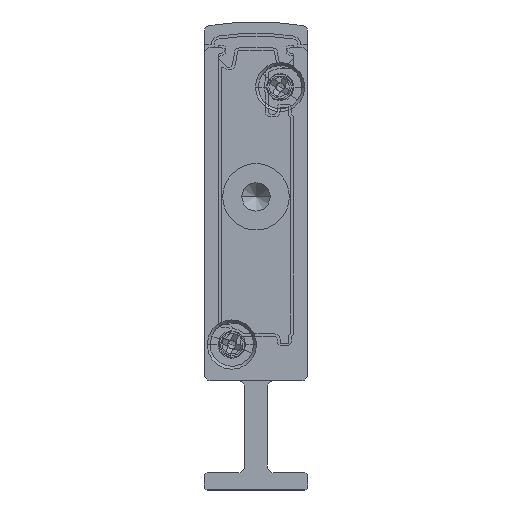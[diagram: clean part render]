
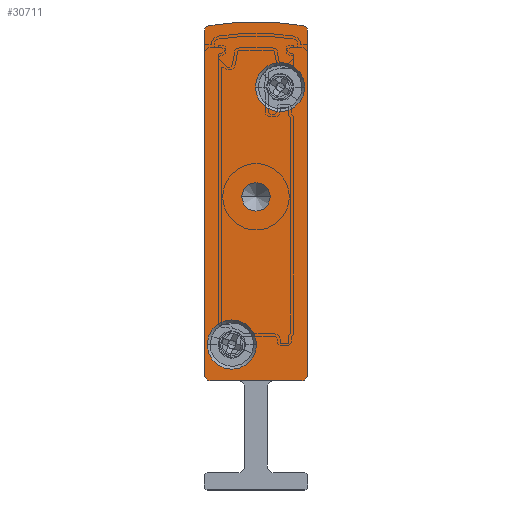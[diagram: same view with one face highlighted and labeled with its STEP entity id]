
A CAD part, front view. The second image highlights one B-rep face of the part: STEP entity #30711.
In plain terms, the highlighted planar face has unit normal (0, -1, 0).
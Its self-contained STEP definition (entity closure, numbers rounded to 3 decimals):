
#231 = CARTESIAN_POINT ( 'NONE',  ( 0.5, -2.5, 9.5 ) ) ;
#265 = DIRECTION ( 'NONE',  ( 1., 0., 0. ) ) ;
#379 = CIRCLE ( 'NONE', #15603, 0.5 ) ;
#557 = CARTESIAN_POINT ( 'NONE',  ( 0.5, -2.5, 39.902 ) ) ;
#647 = DIRECTION ( 'NONE',  ( 0., -1., 0. ) ) ;
#710 = AXIS2_PLACEMENT_3D ( 'NONE', #12746, #30651, #15248 ) ;
#941 = CARTESIAN_POINT ( 'NONE',  ( 8.5, -2.5, 9.5 ) ) ;
#1207 = CIRCLE ( 'NONE', #22330, 1.25 ) ;
#1385 = CIRCLE ( 'NONE', #710, 23.658 ) ;
#2446 = VERTEX_POINT ( 'NONE', #14548 ) ;
#3522 = DIRECTION ( 'NONE',  ( 0., 1., 0. ) ) ;
#3583 = CARTESIAN_POINT ( 'NONE',  ( 0.25, -2.5, 12.65 ) ) ;
#3723 = ORIENTED_EDGE ( 'NONE', *, *, #27003, .F. ) ;
#4072 = CIRCLE ( 'NONE', #13769, 1.25 ) ;
#4303 = VECTOR ( 'NONE', #25459, 1000. ) ;
#4341 = CARTESIAN_POINT ( 'NONE',  ( 0.408, -2.5, 40.393 ) ) ;
#4380 = ORIENTED_EDGE ( 'NONE', *, *, #33105, .F. ) ;
#4766 = DIRECTION ( 'NONE',  ( 0., 1., 0. ) ) ;
#5054 = CIRCLE ( 'NONE', #27409, 2.15 ) ;
#5088 = CARTESIAN_POINT ( 'NONE',  ( 6.6, -2.5, 35.05 ) ) ;
#5846 = FACE_BOUND ( 'NONE', #12994, .T. ) ;
#5941 = CIRCLE ( 'NONE', #13641, 0.5 ) ;
#5942 = ORIENTED_EDGE ( 'NONE', *, *, #26363, .F. ) ;
#6919 = CARTESIAN_POINT ( 'NONE',  ( 9., -2.5, 39.902 ) ) ;
#7326 = EDGE_CURVE ( 'NONE', #11623, #23209, #1207, .T. ) ;
#7616 = VECTOR ( 'NONE', #9473, 1000. ) ;
#7640 = VERTEX_POINT ( 'NONE', #231 ) ;
#8723 = VECTOR ( 'NONE', #24945, 1000. ) ;
#9177 = CARTESIAN_POINT ( 'NONE',  ( 8.75, -2.5, 35.05 ) ) ;
#9431 = DIRECTION ( 'NONE',  ( 0., -1., 0. ) ) ;
#9473 = DIRECTION ( 'NONE',  ( -1., 0., 0. ) ) ;
#9548 = VERTEX_POINT ( 'NONE', #11367 ) ;
#10101 = VERTEX_POINT ( 'NONE', #16615 ) ;
#10194 = ORIENTED_EDGE ( 'NONE', *, *, #20510, .F. ) ;
#10456 = DIRECTION ( 'NONE',  ( 0., -1., 0. ) ) ;
#11367 = CARTESIAN_POINT ( 'NONE',  ( 8.592, -2.5, 40.393 ) ) ;
#11573 = EDGE_CURVE ( 'NONE', #16693, #29483, #23569, .T. ) ;
#11623 = VERTEX_POINT ( 'NONE', #14760 ) ;
#11919 = AXIS2_PLACEMENT_3D ( 'NONE', #18233, #647, #21177 ) ;
#12029 = CARTESIAN_POINT ( 'NONE',  ( 2.4, -2.5, 12.65 ) ) ;
#12065 = CARTESIAN_POINT ( 'NONE',  ( 0.5, -2.5, 9.5 ) ) ;
#12095 = EDGE_CURVE ( 'NONE', #9548, #30003, #379, .T. ) ;
#12349 = DIRECTION ( 'NONE',  ( -1., 0., 0. ) ) ;
#12479 = DIRECTION ( 'NONE',  ( -1., 0., 0. ) ) ;
#12746 = CARTESIAN_POINT ( 'NONE',  ( 4.5, -2.5, 17.092 ) ) ;
#12994 = EDGE_LOOP ( 'NONE', ( #14776, #16353 ) ) ;
#13170 = ORIENTED_EDGE ( 'NONE', *, *, #22545, .F. ) ;
#13190 = ORIENTED_EDGE ( 'NONE', *, *, #31563, .F. ) ;
#13641 = AXIS2_PLACEMENT_3D ( 'NONE', #21464, #3522, #29479 ) ;
#13769 = AXIS2_PLACEMENT_3D ( 'NONE', #32616, #30128, #12349 ) ;
#14548 = CARTESIAN_POINT ( 'NONE',  ( 4.45, -2.5, 35.05 ) ) ;
#14599 = DIRECTION ( 'NONE',  ( 0., 1., 0. ) ) ;
#14760 = CARTESIAN_POINT ( 'NONE',  ( 3.25, -2.5, 25.5 ) ) ;
#14776 = ORIENTED_EDGE ( 'NONE', *, *, #7326, .T. ) ;
#14985 = CIRCLE ( 'NONE', #26468, 0.5 ) ;
#15248 = DIRECTION ( 'NONE',  ( -1., 0., 0. ) ) ;
#15318 = DIRECTION ( 'NONE',  ( -1., 0., 0. ) ) ;
#15603 = AXIS2_PLACEMENT_3D ( 'NONE', #16629, #14599, #32633 ) ;
#15652 = DIRECTION ( 'NONE',  ( 0., 1., 0. ) ) ;
#16067 = DIRECTION ( 'NONE',  ( 0., 1., 0. ) ) ;
#16088 = EDGE_LOOP ( 'NONE', ( #13170, #30492 ) ) ;
#16220 = VERTEX_POINT ( 'NONE', #9177 ) ;
#16353 = ORIENTED_EDGE ( 'NONE', *, *, #31916, .T. ) ;
#16564 = CIRCLE ( 'NONE', #30415, 2.15 ) ;
#16615 = CARTESIAN_POINT ( 'NONE',  ( 4.55, -2.5, 12.65 ) ) ;
#16629 = CARTESIAN_POINT ( 'NONE',  ( 8.5, -2.5, 39.902 ) ) ;
#16693 = VERTEX_POINT ( 'NONE', #27729 ) ;
#16966 = EDGE_CURVE ( 'NONE', #29483, #22878, #14985, .T. ) ;
#17102 = FACE_BOUND ( 'NONE', #23079, .T. ) ;
#17392 = DIRECTION ( 'NONE',  ( 1., 0., 0. ) ) ;
#18233 = CARTESIAN_POINT ( 'NONE',  ( 2.4, -2.5, 12.65 ) ) ;
#20510 = EDGE_CURVE ( 'NONE', #24994, #7640, #31406, .T. ) ;
#20934 = CARTESIAN_POINT ( 'NONE',  ( 0.5, -2.5, 10. ) ) ;
#21063 = CIRCLE ( 'NONE', #33187, 2.15 ) ;
#21087 = DIRECTION ( 'NONE',  ( -1., 0., 0. ) ) ;
#21177 = DIRECTION ( 'NONE',  ( 1., 0., 0. ) ) ;
#21464 = CARTESIAN_POINT ( 'NONE',  ( 8.5, -2.5, 10. ) ) ;
#22330 = AXIS2_PLACEMENT_3D ( 'NONE', #28366, #15652, #15318 ) ;
#22355 = CARTESIAN_POINT ( 'NONE',  ( 6.6, -2.5, 35.05 ) ) ;
#22360 = DIRECTION ( 'NONE',  ( 1., 0., 0. ) ) ;
#22545 = EDGE_CURVE ( 'NONE', #10101, #30441, #23706, .T. ) ;
#22878 = VERTEX_POINT ( 'NONE', #4341 ) ;
#23079 = EDGE_LOOP ( 'NONE', ( #13190, #5942 ) ) ;
#23093 = ORIENTED_EDGE ( 'NONE', *, *, #16966, .F. ) ;
#23205 = VERTEX_POINT ( 'NONE', #24971 ) ;
#23209 = VERTEX_POINT ( 'NONE', #32703 ) ;
#23569 = LINE ( 'NONE', #24670, #4303 ) ;
#23706 = CIRCLE ( 'NONE', #11919, 2.15 ) ;
#24336 = ORIENTED_EDGE ( 'NONE', *, *, #12095, .F. ) ;
#24670 = CARTESIAN_POINT ( 'NONE',  ( 0., -2.5, 39.902 ) ) ;
#24760 = DIRECTION ( 'NONE',  ( 0., -1., 0. ) ) ;
#24793 = FACE_BOUND ( 'NONE', #16088, .T. ) ;
#24945 = DIRECTION ( 'NONE',  ( 0., 0., -1. ) ) ;
#24971 = CARTESIAN_POINT ( 'NONE',  ( 9., -2.5, 10. ) ) ;
#24994 = VERTEX_POINT ( 'NONE', #941 ) ;
#25459 = DIRECTION ( 'NONE',  ( 0., 0., 1. ) ) ;
#26165 = DIRECTION ( 'NONE',  ( -1., 0., 0. ) ) ;
#26363 = EDGE_CURVE ( 'NONE', #2446, #16220, #5054, .T. ) ;
#26398 = FACE_OUTER_BOUND ( 'NONE', #28921, .T. ) ;
#26468 = AXIS2_PLACEMENT_3D ( 'NONE', #557, #16067, #21087 ) ;
#26533 = ORIENTED_EDGE ( 'NONE', *, *, #27192, .F. ) ;
#26898 = CARTESIAN_POINT ( 'NONE',  ( 9., -2.5, 39.902 ) ) ;
#27003 = EDGE_CURVE ( 'NONE', #30003, #23205, #30957, .T. ) ;
#27192 = EDGE_CURVE ( 'NONE', #22878, #9548, #1385, .T. ) ;
#27374 = AXIS2_PLACEMENT_3D ( 'NONE', #30611, #4766, #12479 ) ;
#27409 = AXIS2_PLACEMENT_3D ( 'NONE', #22355, #9431, #17392 ) ;
#27729 = CARTESIAN_POINT ( 'NONE',  ( 0., -2.5, 10. ) ) ;
#27849 = ORIENTED_EDGE ( 'NONE', *, *, #11573, .F. ) ;
#28366 = CARTESIAN_POINT ( 'NONE',  ( 4.5, -2.5, 25.5 ) ) ;
#28921 = EDGE_LOOP ( 'NONE', ( #23093, #27849, #31268, #10194, #4380, #3723, #24336, #26533 ) ) ;
#29479 = DIRECTION ( 'NONE',  ( -1., 0., 0. ) ) ;
#29483 = VERTEX_POINT ( 'NONE', #33098 ) ;
#30003 = VERTEX_POINT ( 'NONE', #26898 ) ;
#30128 = DIRECTION ( 'NONE',  ( 0., 1., 0. ) ) ;
#30415 = AXIS2_PLACEMENT_3D ( 'NONE', #5088, #10456, #265 ) ;
#30441 = VERTEX_POINT ( 'NONE', #3583 ) ;
#30492 = ORIENTED_EDGE ( 'NONE', *, *, #30980, .F. ) ;
#30510 = PLANE ( 'NONE',  #27374 ) ;
#30611 = CARTESIAN_POINT ( 'NONE',  ( 0.5, -2.5, 39.902 ) ) ;
#30651 = DIRECTION ( 'NONE',  ( 0., 1., 0. ) ) ;
#30711 = ADVANCED_FACE ( 'NONE', ( #17102, #24793, #26398, #5846 ), #30510, .F. ) ;
#30957 = LINE ( 'NONE', #6919, #8723 ) ;
#30980 = EDGE_CURVE ( 'NONE', #30441, #10101, #21063, .T. ) ;
#31268 = ORIENTED_EDGE ( 'NONE', *, *, #32806, .F. ) ;
#31406 = LINE ( 'NONE', #12065, #7616 ) ;
#31523 = DIRECTION ( 'NONE',  ( 0., 1., 0. ) ) ;
#31563 = EDGE_CURVE ( 'NONE', #16220, #2446, #16564, .T. ) ;
#31759 = CIRCLE ( 'NONE', #32841, 0.5 ) ;
#31916 = EDGE_CURVE ( 'NONE', #23209, #11623, #4072, .T. ) ;
#32616 = CARTESIAN_POINT ( 'NONE',  ( 4.5, -2.5, 25.5 ) ) ;
#32633 = DIRECTION ( 'NONE',  ( -1., 0., 0. ) ) ;
#32703 = CARTESIAN_POINT ( 'NONE',  ( 5.75, -2.5, 25.5 ) ) ;
#32806 = EDGE_CURVE ( 'NONE', #7640, #16693, #31759, .T. ) ;
#32841 = AXIS2_PLACEMENT_3D ( 'NONE', #20934, #31523, #26165 ) ;
#33098 = CARTESIAN_POINT ( 'NONE',  ( 0., -2.5, 39.902 ) ) ;
#33105 = EDGE_CURVE ( 'NONE', #23205, #24994, #5941, .T. ) ;
#33187 = AXIS2_PLACEMENT_3D ( 'NONE', #12029, #24760, #22360 ) ;
